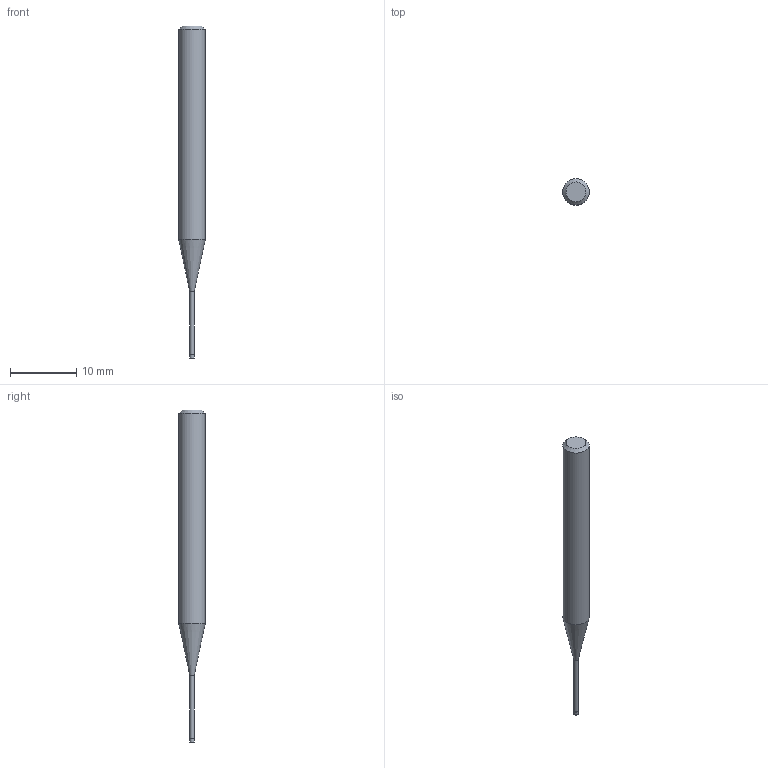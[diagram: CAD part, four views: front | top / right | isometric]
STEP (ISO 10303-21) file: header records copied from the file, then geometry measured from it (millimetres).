
FILE_DESCRIPTION((''),'2;1');
FILE_NAME('C:\Users\nsx150\AppData\Local\Temp\Mastercam 2021\RJ5U8K7RMU\TEMP.step','2021-04-21T16:40:38',(''),(''),'STEP Write','Mastercam 2021 ... CNC Software, Inc.','');
FILE_SCHEMA(('AUTOMOTIVE_DESIGN'));
Length unit declared in the file: millimetre
Products named in the file (1): None
Bounding box: 4 x 4 x 50 mm (x, y, z)
Volume: 445.2 mm3; surface area: 493.2 mm2
Topology: 2 solids, 2 shells, 9 faces, 12 edges, 7 vertices
Faces by surface type: plane 4, cylinder 3, cone 2
Full cylindrical faces by diameter (mm): 0.66 x1, 0.7 x1, 4 x1
Entity records: 211 total; most frequent: DIRECTION 36, CARTESIAN_POINT 25, AXIS2_PLACEMENT_3D 18, ORIENTED_EDGE 14, EDGE_LOOP 14, STYLED_ITEM 12, ADVANCED_FACE 9, FACE_BOUND 8
